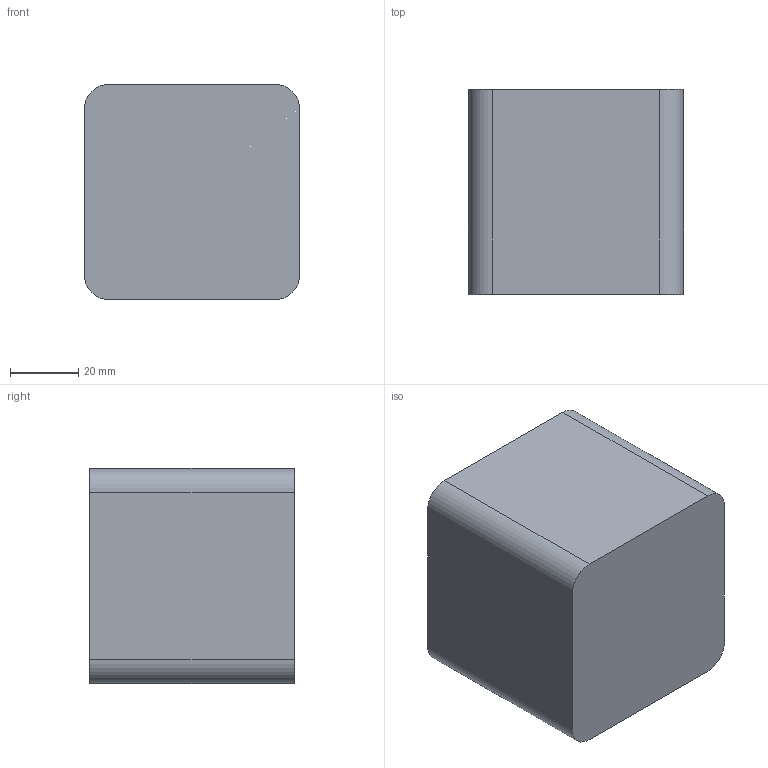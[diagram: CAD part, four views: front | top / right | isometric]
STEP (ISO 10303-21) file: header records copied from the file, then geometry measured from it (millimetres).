
FILE_DESCRIPTION(('Open CASCADE Model'),'2;1');
FILE_NAME('Open CASCADE Shape Model','2026-10-17T16:45:03',('Author'),( 'Open CASCADE'),'Open CASCADE STEP processor 8.0','build123d', 'Unknown');
FILE_SCHEMA(('AUTOMOTIVE_DESIGN { 1 0 10303 214 1 1 1 1 }'));
Length unit declared in the file: millimetre
Products named in the file (2): =>[0:1:1:2]; COMPOUND
Assembly tree (1 placements, depth 2):
  =>[0:1:1:2]
    COMPOUND
Bounding box: 63 x 60 x 63 mm (x, y, z)
Volume: 235616.3 mm3; surface area: 22252.8 mm2
Topology: 1 solids, 1 shells, 10 faces, 24 edges, 16 vertices
Faces by surface type: plane 6, cylinder 4
Entity records: 648 total; most frequent: CARTESIAN_POINT 124, DIRECTION 100, LINE 56, VECTOR 56, ORIENTED_EDGE 48, PCURVE 48, DEFINITIONAL_REPRESENTATION 48, EDGE_CURVE 24
